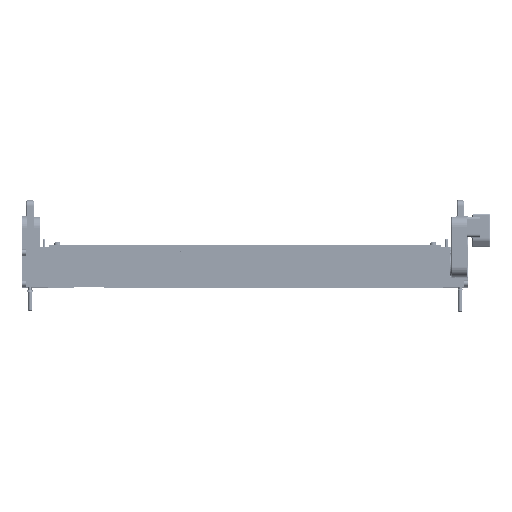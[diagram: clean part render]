
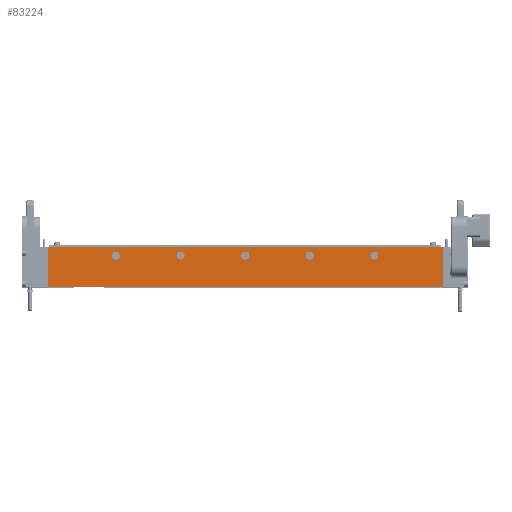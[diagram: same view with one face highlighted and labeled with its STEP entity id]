
A CAD part, top view. The second image highlights one B-rep face of the part: STEP entity #83224.
In plain terms, the highlighted planar face has unit normal (0, 0, 1).
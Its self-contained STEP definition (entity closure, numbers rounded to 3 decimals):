
#1850=CIRCLE($,#88585,0.172);
#1854=CIRCLE($,#88592,0.172);
#1858=CIRCLE($,#88599,0.172);
#1862=CIRCLE($,#88606,0.172);
#1866=CIRCLE($,#88613,0.172);
#5584=FACE_BOUND($,#17457,.T.);
#5585=FACE_BOUND($,#17458,.T.);
#5586=FACE_BOUND($,#17459,.T.);
#5587=FACE_BOUND($,#17460,.T.);
#5588=FACE_BOUND($,#17461,.T.);
#5589=FACE_BOUND($,#17462,.T.);
#17457=EDGE_LOOP($,(#57604));
#17458=EDGE_LOOP($,(#57605));
#17459=EDGE_LOOP($,(#57606));
#17460=EDGE_LOOP($,(#57607));
#17461=EDGE_LOOP($,(#57608));
#17462=EDGE_LOOP($,(#57609,#57610,#57611,#57612));
#25529=LINE($,#122504,#30864);
#25542=LINE($,#122533,#30877);
#25547=LINE($,#122545,#30882);
#25552=LINE($,#122752,#30887);
#30864=VECTOR($,#97449,16.8);
#30877=VECTOR($,#97476,1.723);
#30882=VECTOR($,#97487,16.8);
#30887=VECTOR($,#97766,1.723);
#36220=VERTEX_POINT($,#122392);
#36224=VERTEX_POINT($,#122403);
#36228=VERTEX_POINT($,#122414);
#36232=VERTEX_POINT($,#122425);
#36236=VERTEX_POINT($,#122436);
#36260=VERTEX_POINT($,#122501);
#36261=VERTEX_POINT($,#122503);
#36270=VERTEX_POINT($,#122531);
#36274=VERTEX_POINT($,#122543);
#44756=EDGE_CURVE($,#36220,#36220,#1850,.T.);
#44760=EDGE_CURVE($,#36224,#36224,#1854,.T.);
#44764=EDGE_CURVE($,#36228,#36228,#1858,.T.);
#44768=EDGE_CURVE($,#36232,#36232,#1862,.T.);
#44772=EDGE_CURVE($,#36236,#36236,#1866,.T.);
#44802=EDGE_CURVE($,#36261,#36260,#25529,.T.);
#44817=EDGE_CURVE($,#36260,#36270,#25542,.T.);
#44824=EDGE_CURVE($,#36274,#36270,#25547,.T.);
#44893=EDGE_CURVE($,#36261,#36274,#25552,.T.);
#57604=ORIENTED_EDGE($,*,*,#44756,.T.);
#57605=ORIENTED_EDGE($,*,*,#44760,.T.);
#57606=ORIENTED_EDGE($,*,*,#44764,.T.);
#57607=ORIENTED_EDGE($,*,*,#44768,.T.);
#57608=ORIENTED_EDGE($,*,*,#44772,.T.);
#57609=ORIENTED_EDGE($,*,*,#44817,.T.);
#57610=ORIENTED_EDGE($,*,*,#44824,.F.);
#57611=ORIENTED_EDGE($,*,*,#44893,.F.);
#57612=ORIENTED_EDGE($,*,*,#44802,.T.);
#76817=PLANE($,#88783);
#83224=ADVANCED_FACE($,(#5584,#5585,#5586,#5587,#5588,#5589),#76817,.T.);
#88585=AXIS2_PLACEMENT_3D($,#122393,#97327,#97328);
#88592=AXIS2_PLACEMENT_3D($,#122404,#97341,#97342);
#88599=AXIS2_PLACEMENT_3D($,#122415,#97355,#97356);
#88606=AXIS2_PLACEMENT_3D($,#122426,#97369,#97370);
#88613=AXIS2_PLACEMENT_3D($,#122437,#97383,#97384);
#88783=AXIS2_PLACEMENT_3D($,#122751,#97764,#97765);
#97327=DIRECTION('center_axis',(0.,0.,
-1.));
#97328=DIRECTION('ref_axis',(1.,0.,0.));
#97341=DIRECTION('center_axis',(0.,0.,
-1.));
#97342=DIRECTION('ref_axis',(1.,0.,0.));
#97355=DIRECTION('center_axis',(0.,0.,
-1.));
#97356=DIRECTION('ref_axis',(1.,0.,0.));
#97369=DIRECTION('center_axis',(0.,0.,
-1.));
#97370=DIRECTION('ref_axis',(1.,0.,0.));
#97383=DIRECTION('center_axis',(0.,0.,
-1.));
#97384=DIRECTION('ref_axis',(1.,0.,0.));
#97449=DIRECTION($,(-1.,0.,0.));
#97476=DIRECTION($,(0.,-1.,0.));
#97487=DIRECTION($,(-1.,0.,0.));
#97764=DIRECTION('center_axis',(0.,0.,
1.));
#97765=DIRECTION('ref_axis',(1.,0.,0.));
#97766=DIRECTION($,(0.,-1.,0.));
#122392=CARTESIAN_POINT('',(15.162,0.912,0.844));
#122393=CARTESIAN_POINT('Origin',(14.99,0.912,0.844));
#122403=CARTESIAN_POINT('',(12.412,0.912,0.844));
#122404=CARTESIAN_POINT('Origin',(12.24,0.912,0.844));
#122414=CARTESIAN_POINT('',(9.662,0.912,0.844));
#122415=CARTESIAN_POINT('Origin',(9.49,0.912,0.844));
#122425=CARTESIAN_POINT('',(6.912,0.912,0.844));
#122426=CARTESIAN_POINT('Origin',(6.74,0.912,0.844));
#122436=CARTESIAN_POINT('',(4.162,0.912,0.844));
#122437=CARTESIAN_POINT('Origin',(3.99,0.912,0.844));
#122501=CARTESIAN_POINT('',(1.09,1.287,0.844));
#122503=CARTESIAN_POINT('',(17.89,1.287,0.844));
#122504=CARTESIAN_POINT($,(17.89,1.287,0.844));
#122531=CARTESIAN_POINT('',(1.09,-0.436,0.843));
#122533=CARTESIAN_POINT($,(1.09,1.287,0.844));
#122543=CARTESIAN_POINT('',(17.89,-0.436,0.843));
#122545=CARTESIAN_POINT($,(17.89,-0.436,0.843));
#122751=CARTESIAN_POINT('Origin',(17.89,1.287,0.844));
#122752=CARTESIAN_POINT($,(17.89,1.287,0.844));
